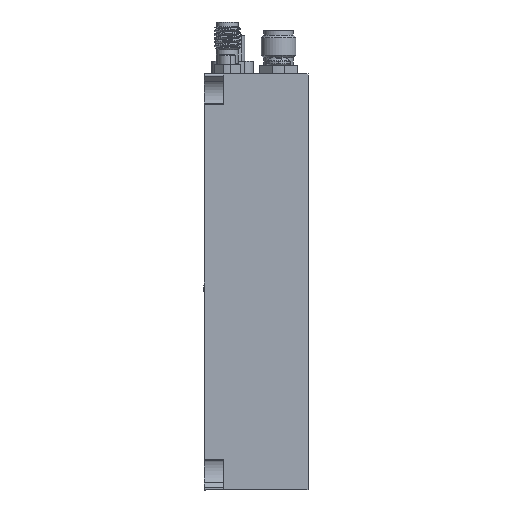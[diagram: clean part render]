
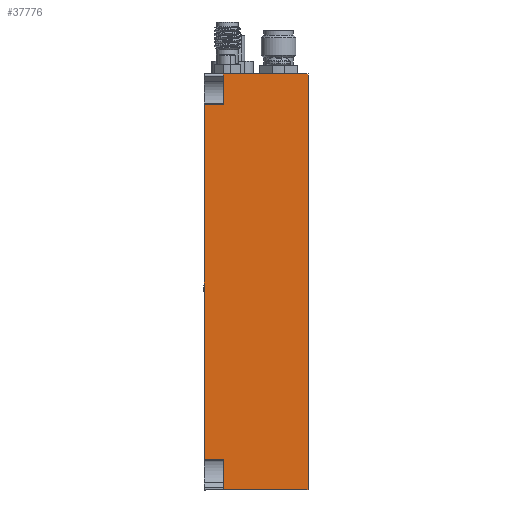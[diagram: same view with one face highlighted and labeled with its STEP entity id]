
A CAD part, left-side view. The second image highlights one B-rep face of the part: STEP entity #37776.
In plain terms, the highlighted planar face has unit normal (-1, 0, 0).
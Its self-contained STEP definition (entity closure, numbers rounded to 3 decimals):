
#169 = CARTESIAN_POINT ( 'NONE',  ( -5.352, 51.092, 94.101 ) ) ;
#548 = VECTOR ( 'NONE', #36504, 1000. ) ;
#557 = CARTESIAN_POINT ( 'NONE',  ( -5.352, 54.648, 88.437 ) ) ;
#1116 = CARTESIAN_POINT ( 'NONE',  ( -5.352, 51.092, 23.566 ) ) ;
#1516 = LINE ( 'NONE', #5630, #548 ) ;
#1611 = DIRECTION ( 'NONE',  ( 0., 1., 0. ) ) ;
#3536 = VECTOR ( 'NONE', #28977, 1000. ) ;
#3700 = VERTEX_POINT ( 'NONE', #557 ) ;
#5044 = EDGE_CURVE ( 'NONE', #23245, #39494, #5075, .T. ) ;
#5075 = LINE ( 'NONE', #14118, #38665 ) ;
#5396 = LINE ( 'NONE', #36195, #15509 ) ;
#5445 = PLANE ( 'NONE',  #20764 ) ;
#5611 = CARTESIAN_POINT ( 'NONE',  ( -5.352, 35.598, 94.101 ) ) ;
#5630 = CARTESIAN_POINT ( 'NONE',  ( -5.352, 51.092, 88.437 ) ) ;
#7793 = VERTEX_POINT ( 'NONE', #169 ) ;
#8251 = EDGE_LOOP ( 'NONE', ( #15654, #26983, #9585, #32456, #13141, #15494, #11809, #13749 ) ) ;
#8545 = DIRECTION ( 'NONE',  ( 1., 0., 0. ) ) ;
#9075 = LINE ( 'NONE', #12127, #11950 ) ;
#9585 = ORIENTED_EDGE ( 'NONE', *, *, #10192, .F. ) ;
#9714 = EDGE_CURVE ( 'NONE', #18278, #32401, #19864, .T. ) ;
#10192 = EDGE_CURVE ( 'NONE', #18278, #23245, #25639, .T. ) ;
#11809 = ORIENTED_EDGE ( 'NONE', *, *, #14233, .F. ) ;
#11950 = VECTOR ( 'NONE', #17690, 1000. ) ;
#12127 = CARTESIAN_POINT ( 'NONE',  ( -5.352, 35.598, 17.901 ) ) ;
#13112 = CARTESIAN_POINT ( 'NONE',  ( -5.352, 54.648, 17.901 ) ) ;
#13141 = ORIENTED_EDGE ( 'NONE', *, *, #33471, .T. ) ;
#13435 = LINE ( 'NONE', #17378, #29758 ) ;
#13749 = ORIENTED_EDGE ( 'NONE', *, *, #30298, .T. ) ;
#14118 = CARTESIAN_POINT ( 'NONE',  ( -5.352, 51.092, 23.566 ) ) ;
#14179 = CARTESIAN_POINT ( 'NONE',  ( -5.352, 54.648, 17.901 ) ) ;
#14233 = EDGE_CURVE ( 'NONE', #19442, #7793, #13435, .T. ) ;
#15246 = CARTESIAN_POINT ( 'NONE',  ( -5.352, 51.092, 17.901 ) ) ;
#15494 = ORIENTED_EDGE ( 'NONE', *, *, #39134, .F. ) ;
#15509 = VECTOR ( 'NONE', #20893, 1000. ) ;
#15654 = ORIENTED_EDGE ( 'NONE', *, *, #26451, .F. ) ;
#16538 = VECTOR ( 'NONE', #37358, 1000. ) ;
#17378 = CARTESIAN_POINT ( 'NONE',  ( -5.352, 51.092, 94.101 ) ) ;
#17690 = DIRECTION ( 'NONE',  ( 0., 0., 1. ) ) ;
#17995 = FACE_OUTER_BOUND ( 'NONE', #8251, .T. ) ;
#18278 = VERTEX_POINT ( 'NONE', #15246 ) ;
#19442 = VERTEX_POINT ( 'NONE', #20084 ) ;
#19864 = LINE ( 'NONE', #31902, #3536 ) ;
#20084 = CARTESIAN_POINT ( 'NONE',  ( -5.352, 51.092, 88.437 ) ) ;
#20636 = VERTEX_POINT ( 'NONE', #5611 ) ;
#20764 = AXIS2_PLACEMENT_3D ( 'NONE', #14179, #8545, #32974 ) ;
#20893 = DIRECTION ( 'NONE',  ( 0., -1., 0. ) ) ;
#23245 = VERTEX_POINT ( 'NONE', #1116 ) ;
#25471 = DIRECTION ( 'NONE',  ( 0., 0., 1. ) ) ;
#25639 = LINE ( 'NONE', #34308, #16538 ) ;
#26451 = EDGE_CURVE ( 'NONE', #39494, #3700, #36817, .T. ) ;
#26983 = ORIENTED_EDGE ( 'NONE', *, *, #5044, .F. ) ;
#28682 = VECTOR ( 'NONE', #25471, 1000. ) ;
#28977 = DIRECTION ( 'NONE',  ( 0., -1., 0. ) ) ;
#29758 = VECTOR ( 'NONE', #32513, 1000. ) ;
#30298 = EDGE_CURVE ( 'NONE', #19442, #3700, #1516, .T. ) ;
#31902 = CARTESIAN_POINT ( 'NONE',  ( -5.352, 54.648, 17.901 ) ) ;
#32401 = VERTEX_POINT ( 'NONE', #37557 ) ;
#32456 = ORIENTED_EDGE ( 'NONE', *, *, #9714, .T. ) ;
#32513 = DIRECTION ( 'NONE',  ( 0., 0., 1. ) ) ;
#32525 = CARTESIAN_POINT ( 'NONE',  ( -5.352, 54.648, 23.566 ) ) ;
#32974 = DIRECTION ( 'NONE',  ( 0., 0., -1. ) ) ;
#33471 = EDGE_CURVE ( 'NONE', #32401, #20636, #9075, .T. ) ;
#34308 = CARTESIAN_POINT ( 'NONE',  ( -5.352, 51.092, 17.901 ) ) ;
#36195 = CARTESIAN_POINT ( 'NONE',  ( -5.352, 54.648, 94.101 ) ) ;
#36504 = DIRECTION ( 'NONE',  ( 0., 1., 0. ) ) ;
#36817 = LINE ( 'NONE', #13112, #28682 ) ;
#37358 = DIRECTION ( 'NONE',  ( 0., 0., 1. ) ) ;
#37557 = CARTESIAN_POINT ( 'NONE',  ( -5.352, 35.598, 17.901 ) ) ;
#37776 = ADVANCED_FACE ( 'NONE', ( #17995 ), #5445, .F. ) ;
#38665 = VECTOR ( 'NONE', #1611, 1000. ) ;
#39134 = EDGE_CURVE ( 'NONE', #7793, #20636, #5396, .T. ) ;
#39494 = VERTEX_POINT ( 'NONE', #32525 ) ;
